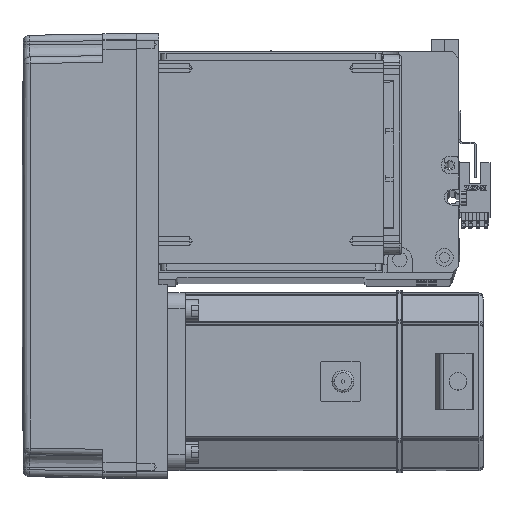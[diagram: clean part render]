
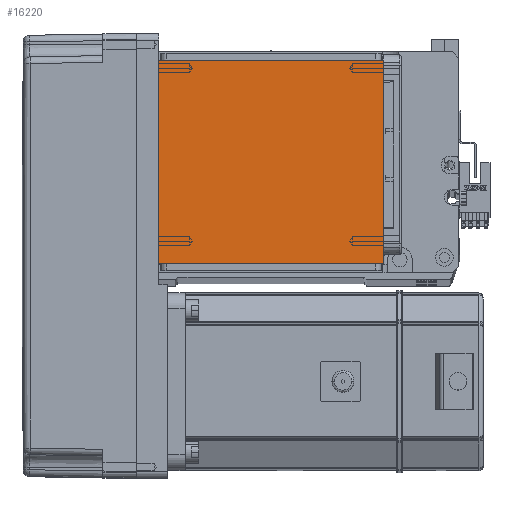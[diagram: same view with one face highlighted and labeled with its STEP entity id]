
A CAD part, top view. The second image highlights one B-rep face of the part: STEP entity #16220.
In plain terms, the highlighted planar face has unit normal (0, 0, 1).
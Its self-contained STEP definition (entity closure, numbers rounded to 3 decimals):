
#169 = LINE ( 'NONE', #36411, #39512 ) ;
#1359 = DIRECTION ( 'NONE',  ( 1., 0., 0. ) ) ;
#1457 = CARTESIAN_POINT ( 'NONE',  ( -50.5, 122., 115. ) ) ;
#2229 = EDGE_LOOP ( 'NONE', ( #4711, #57838, #32428, #44060 ) ) ;
#3564 = VECTOR ( 'NONE', #17789, 1000. ) ;
#4711 = ORIENTED_EDGE ( 'NONE', *, *, #20613, .F. ) ;
#4972 = VERTEX_POINT ( 'NONE', #55664 ) ;
#8616 = LINE ( 'NONE', #59327, #3564 ) ;
#9040 = DIRECTION ( 'NONE',  ( 1., 0., 0. ) ) ;
#14956 = CARTESIAN_POINT ( 'NONE',  ( 50.5, 111.5, 115. ) ) ;
#15620 = EDGE_CURVE ( 'NONE', #4972, #18752, #25995, .T. ) ;
#16220 = ADVANCED_FACE ( 'NONE', ( #32524 ), #47810, .T. ) ;
#17789 = DIRECTION ( 'NONE',  ( 0., 1., 0. ) ) ;
#18752 = VERTEX_POINT ( 'NONE', #32510 ) ;
#19696 = CARTESIAN_POINT ( 'NONE',  ( 0., 0., 115. ) ) ;
#20613 = EDGE_CURVE ( 'NONE', #4972, #57434, #169, .T. ) ;
#25995 = LINE ( 'NONE', #1457, #27473 ) ;
#27473 = VECTOR ( 'NONE', #48113, 1000. ) ;
#29384 = AXIS2_PLACEMENT_3D ( 'NONE', #19696, #52865, #1359 ) ;
#32428 = ORIENTED_EDGE ( 'NONE', *, *, #41319, .F. ) ;
#32510 = CARTESIAN_POINT ( 'NONE',  ( -50.5, 20., 115. ) ) ;
#32524 = FACE_OUTER_BOUND ( 'NONE', #2229, .T. ) ;
#36411 = CARTESIAN_POINT ( 'NONE',  ( -70.004, 111.5, 115. ) ) ;
#39480 = DIRECTION ( 'NONE',  ( -1., 0., 0. ) ) ;
#39512 = VECTOR ( 'NONE', #9040, 1000. ) ;
#41319 = EDGE_CURVE ( 'NONE', #52573, #18752, #45415, .T. ) ;
#43175 = CARTESIAN_POINT ( 'NONE',  ( 50.5, 20., 115. ) ) ;
#44060 = ORIENTED_EDGE ( 'NONE', *, *, #51770, .T. ) ;
#45415 = LINE ( 'NONE', #49443, #46892 ) ;
#46892 = VECTOR ( 'NONE', #39480, 1000. ) ;
#47810 = PLANE ( 'NONE',  #29384 ) ;
#48113 = DIRECTION ( 'NONE',  ( 0., -1., 0. ) ) ;
#49443 = CARTESIAN_POINT ( 'NONE',  ( -70.004, 20., 115. ) ) ;
#51770 = EDGE_CURVE ( 'NONE', #52573, #57434, #8616, .T. ) ;
#52573 = VERTEX_POINT ( 'NONE', #43175 ) ;
#52865 = DIRECTION ( 'NONE',  ( 0., 0., 1. ) ) ;
#55664 = CARTESIAN_POINT ( 'NONE',  ( -50.5, 111.5, 115. ) ) ;
#57434 = VERTEX_POINT ( 'NONE', #14956 ) ;
#57838 = ORIENTED_EDGE ( 'NONE', *, *, #15620, .T. ) ;
#59327 = CARTESIAN_POINT ( 'NONE',  ( 50.5, 122., 115. ) ) ;
